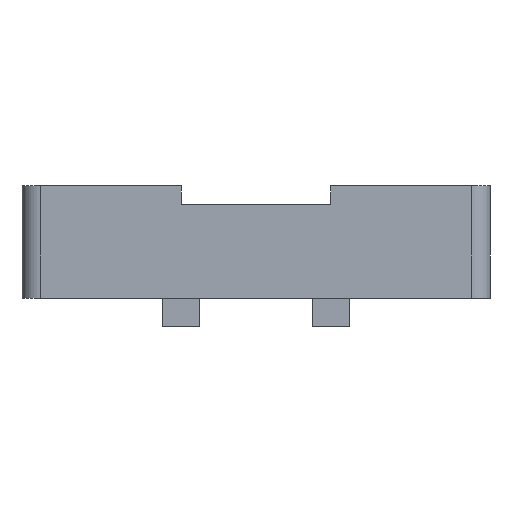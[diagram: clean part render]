
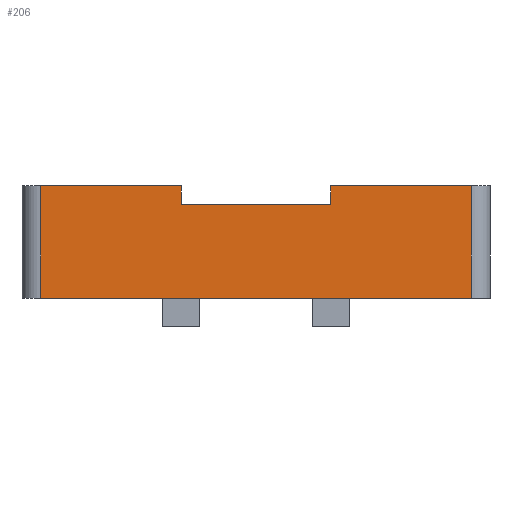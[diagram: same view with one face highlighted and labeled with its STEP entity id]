
A CAD part, front view. The second image highlights one B-rep face of the part: STEP entity #206.
In plain terms, the highlighted planar face has unit normal (0, -1, 0).
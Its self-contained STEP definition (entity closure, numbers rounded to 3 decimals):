
#206=ADVANCED_FACE('',(#672),#674,.T.);
#672=FACE_BOUND('',#673,.T.);
#673=EDGE_LOOP('',(#1009,#1010,#1011,#1012,#1013,#1014,#1015,#1016));
#674=PLANE('',#675);
#675=AXIS2_PLACEMENT_3D('',#676,#677,#678);
#676=CARTESIAN_POINT('',(-50.,-72.5,0.));
#677=DIRECTION('',(0.,-1.,0.));
#678=DIRECTION('',(1.,0.,0.));
#1009=ORIENTED_EDGE('',*,*,#1208,.T.);
#1010=ORIENTED_EDGE('',*,*,#1182,.F.);
#1011=ORIENTED_EDGE('',*,*,#1209,.T.);
#1012=ORIENTED_EDGE('',*,*,#1210,.T.);
#1013=ORIENTED_EDGE('',*,*,#1197,.T.);
#1014=ORIENTED_EDGE('',*,*,#1170,.F.);
#1015=ORIENTED_EDGE('',*,*,#1211,.F.);
#1016=ORIENTED_EDGE('',*,*,#1212,.T.);
#1170=EDGE_CURVE('',#1277,#1280,#1281,.T.);
#1182=EDGE_CURVE('',#1302,#1294,#1304,.T.);
#1197=EDGE_CURVE('',#1333,#1280,#1334,.F.);
#1208=EDGE_CURVE('',#1351,#1294,#1352,.T.);
#1209=EDGE_CURVE('',#1302,#1353,#1354,.F.);
#1210=EDGE_CURVE('',#1353,#1333,#1355,.T.);
#1211=EDGE_CURVE('',#1356,#1277,#1357,.T.);
#1212=EDGE_CURVE('',#1356,#1351,#1358,.T.);
#1277=VERTEX_POINT('',#1465);
#1280=VERTEX_POINT('',#1471);
#1281=LINE('',#1472,#1473);
#1294=VERTEX_POINT('',#1502);
#1302=VERTEX_POINT('',#1520);
#1304=LINE('',#1524,#1525);
#1333=VERTEX_POINT('',#1597);
#1334=LINE('',#1598,#1599);
#1351=VERTEX_POINT('',#1637);
#1352=LINE('',#1638,#1639);
#1353=VERTEX_POINT('',#1641);
#1354=LINE('',#1642,#1643);
#1355=LINE('',#1645,#1646);
#1356=VERTEX_POINT('',#1648);
#1357=LINE('',#1649,#1650);
#1358=LINE('',#1652,#1653);
#1465=CARTESIAN_POINT('',(-48.,-72.5,12.));
#1471=CARTESIAN_POINT('',(-33.,-72.5,12.));
#1472=CARTESIAN_POINT('',(-48.,-72.5,12.));
#1473=VECTOR('',#1474,1.);
#1474=DIRECTION('',(1.,0.,0.));
#1502=CARTESIAN_POINT('',(-2.,-72.5,12.));
#1520=CARTESIAN_POINT('',(-17.,-72.5,12.));
#1524=CARTESIAN_POINT('',(-17.,-72.5,12.));
#1525=VECTOR('',#1526,1.);
#1526=DIRECTION('',(1.,0.,0.));
#1597=CARTESIAN_POINT('',(-33.,-72.5,10.));
#1598=CARTESIAN_POINT('',(-33.,-72.5,12.));
#1599=VECTOR('',#1600,1.);
#1600=DIRECTION('',(0.,0.,-1.));
#1637=CARTESIAN_POINT('',(-2.,-72.5,0.));
#1638=CARTESIAN_POINT('',(-2.,-72.5,0.));
#1639=VECTOR('',#1640,1.);
#1640=DIRECTION('',(0.,0.,1.));
#1641=CARTESIAN_POINT('',(-17.,-72.5,10.));
#1642=CARTESIAN_POINT('',(-17.,-72.5,10.));
#1643=VECTOR('',#1644,1.);
#1644=DIRECTION('',(0.,0.,1.));
#1645=CARTESIAN_POINT('',(-17.,-72.5,10.));
#1646=VECTOR('',#1647,1.);
#1647=DIRECTION('',(-1.,0.,0.));
#1648=CARTESIAN_POINT('',(-48.,-72.5,0.));
#1649=CARTESIAN_POINT('',(-48.,-72.5,0.));
#1650=VECTOR('',#1651,1.);
#1651=DIRECTION('',(0.,0.,1.));
#1652=CARTESIAN_POINT('',(-48.,-72.5,0.));
#1653=VECTOR('',#1654,1.);
#1654=DIRECTION('',(1.,0.,0.));
